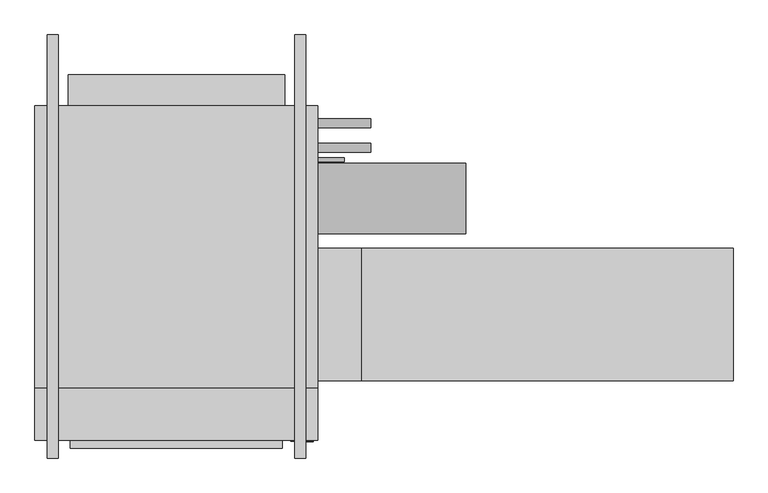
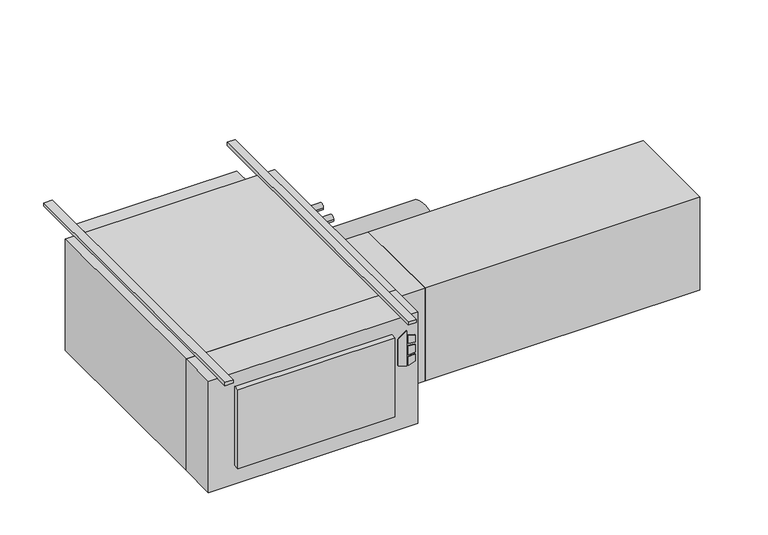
"""IFC4 building model written with IfcOpenShell, lengths in millimetres: proxy geometry."""

from ifc_helpers import new_model, si_unit, point, frame, frame_2d, origin, origin_with_axes, place, context, project, spatial, polyline, circle_curve, trimmed, segment, composite_curve, outline, extrude, source, transform, mapped, element, save


def mechanical_equipment_14f6b31d(model_context):
    return source(origin(), model_context, "Body", "SweptSolid", [
        extrude(outline(polyline([(-193.2519297, 481.0868862), (-203.2, 513.2602728), (-61.0290756, 513.2602728), (-84.0510817, 481.0868862), (-193.2519297, 481.0868862)])), frame((0.0, -797.052, 0.0), z_axis=(0.0, 1.0, 0.0), x_axis=(0.0, 0.0, 1.0)), (0.0, 0.0, 1.0), 3.175),
        extrude(outline(polyline([(-114.2526443, 520.0186058), (-117.4550368, 546.1), (-88.2261958, 546.1), (-80.1617807, 520.0186058), (-114.2526443, 520.0186058)])), frame((0.0, -797.052, 0.0), z_axis=(0.0, 1.0, 0.0), x_axis=(0.0, 0.0, 1.0)), (0.0, 0.0, 1.0), 3.175),
        extrude(outline(polyline([(-166.1161712, 546.1), (-169.7816721, 520.0186058), (-203.2, 520.0186058), (-194.5657628, 546.1), (-166.1161712, 546.1)])), frame((0.0, -797.052, 0.0), z_axis=(0.0, 1.0, 0.0), x_axis=(0.0, 0.0, 1.0)), (0.0, 0.0, 1.0), 3.175),
        extrude(outline(polyline([(-126.8010097, 546.1), (-124.5191834, 520.0186058), (-160.4567319, 520.0186058), (-157.7154669, 546.1), (-126.8010097, 546.1)])), frame((0.0, -797.052, 0.0), z_axis=(0.0, 1.0, 0.0), x_axis=(0.0, 0.0, 1.0)), (0.0, 0.0, 1.0), 3.175),
        extrude(outline(polyline([(558.8, -793.877), (-254.0, -793.877), (-254.0, -644.525), (558.8, -644.525), (558.8, -793.877)])), frame((0.0, 0.0, -457.2), z_axis=(0.0, 0.0, 1.0), x_axis=(1.0, 0.0, 0.0)), (0.0, 0.0, 1.0), 457.2),
        extrude(outline(polyline([(457.2, -816.229), (-152.4, -816.229), (-152.4, -793.877), (457.2, -793.877), (457.2, -816.229)])), frame((0.0, 0.0, -381.0), z_axis=(0.0, 0.0, 1.0), x_axis=(1.0, 0.0, 0.0)), (0.0, 0.0, 1.0), 323.85),
        extrude(outline(polyline([(1752.6, -241.3), (1752.6, -622.3), (685.8, -622.3), (685.8, -241.3), (1752.6, -241.3)])), frame((0.0, 0.0, -431.8), z_axis=(0.0, 0.0, 1.0), x_axis=(1.0, 0.0, 0.0)), (0.0, 0.0, 1.0), 381.0),
        extrude(outline(polyline([(685.8, -241.3), (685.8, -622.3), (558.8, -622.3), (558.8, -241.3), (685.8, -241.3)])), frame((0.0, 0.0, -431.8), z_axis=(0.0, 0.0, 1.0), x_axis=(1.0, 0.0, 0.0)), (0.0, 0.0, 1.0), 381.0),
        extrude(outline(composite_curve([segment(trimmed(circle_curve(frame_2d((117.475, -171.45)), 12.7), [point((130.175, -171.45))], [point((104.775, -171.45))], False, "CARTESIAN"), True, "CONTINUOUS"), segment(trimmed(circle_curve(frame_2d((117.475, -171.45)), 12.7), [point((104.775, -171.45))], [point((130.175, -171.45))], False, "CARTESIAN"), True, "CONTINUOUS")], self_intersect=False)), frame((558.8, 0.0, 0.0), z_axis=(1.0, 0.0, 0.0), x_axis=(0.0, 1.0, 0.0)), (0.0, 0.0, 1.0), 152.4),
        extrude(outline(composite_curve([segment(trimmed(circle_curve(frame_2d((47.625, -177.8)), 12.7), [point((60.325, -177.8))], [point((34.925, -177.8))], False, "CARTESIAN"), True, "CONTINUOUS"), segment(trimmed(circle_curve(frame_2d((47.625, -177.8)), 12.7), [point((34.925, -177.8))], [point((60.325, -177.8))], False, "CARTESIAN"), True, "CONTINUOUS")], self_intersect=False)), frame((558.8, 0.0, 0.0), z_axis=(1.0, 0.0, 0.0), x_axis=(0.0, 1.0, 0.0)), (0.0, 0.0, 1.0), 152.4),
        extrude(outline(composite_curve([segment(trimmed(circle_curve(frame_2d((-98.4896516, -228.6360165)), 101.6), [point((3.1103484, -228.6360165))], [point((-200.0896516, -228.6360165))], False, "CARTESIAN"), True, "CONTINUOUS"), segment(trimmed(circle_curve(frame_2d((-98.4896516, -228.6360165)), 101.6), [point((-200.0896516, -228.6360165))], [point((3.1103484, -228.6360165))], False, "CARTESIAN"), True, "CONTINUOUS")], self_intersect=False)), frame((558.8, 0.0, 0.0), z_axis=(1.0, 0.0, 0.0), x_axis=(0.0, 1.0, 0.0)), (0.0, 0.0, 1.0), 425.45),
        extrude(outline(composite_curve([segment(trimmed(circle_curve(frame_2d((12.7, -409.575)), 6.35), [point((19.05, -409.575))], [point((6.35, -409.575))], False, "CARTESIAN"), True, "CONTINUOUS"), segment(trimmed(circle_curve(frame_2d((12.7, -409.575)), 6.35), [point((6.35, -409.575))], [point((19.05, -409.575))], False, "CARTESIAN"), True, "CONTINUOUS")], self_intersect=False)), frame((558.8, 0.0, 0.0), z_axis=(1.0, 0.0, 0.0), x_axis=(0.0, 1.0, 0.0)), (0.0, 0.0, 1.0), 76.2),
        extrude(outline(polyline([(558.8, 168.275), (558.8, -644.525), (-254.0, -644.525), (-254.0, 168.275), (558.8, 168.275)])), frame((0.0, 0.0, -457.2), z_axis=(0.0, 0.0, 1.0), x_axis=(1.0, 0.0, 0.0)), (0.0, 0.0, 1.0), 457.2),
        extrude(outline(polyline([(-158.75, 257.175), (463.55, 257.175), (463.55, 168.275), (-158.75, 168.275), (-158.75, 257.175)])), frame((0.0, 0.0, -381.0), z_axis=(0.0, 0.0, 1.0), x_axis=(1.0, 0.0, 0.0)), (0.0, 0.0, 1.0), 355.6),
        extrude(outline(polyline([(-187.325, 371.475), (-187.325, -844.677), (-219.075, -844.677), (-219.075, 371.475), (-187.325, 371.475)])), origin_with_axes(), (0.0, 0.0, 1.0), 12.7),
        extrude(outline(polyline([(523.875, 371.475), (523.875, -844.677), (492.125, -844.677), (492.125, 371.475), (523.875, 371.475)])), origin_with_axes(), (0.0, 0.0, 1.0), 12.7),
    ])


if __name__ == "__main__":
    model = new_model("IFC4")
    model_context = context("Model", 3, world=origin())
    ifc_project = project(units=[si_unit("LENGTHUNIT", "METRE", prefix="MILLI")], contexts=[model_context])
    site = spatial("IfcSite", under=ifc_project)
    building = spatial("IfcBuilding", under=site)
    placement = place(None, origin())
    mechanical_equipment_shape = mechanical_equipment_14f6b31d(model_context)
    element("IfcBuildingElementProxy", 1, Name="High_Capacity_Horizontal_Cabinet_Fan_Coil_Unit_-_HTY_-_IEC_-_2 Pipe, Elec Heat_WO-Attenuator_RH Side_2022 : Size 10 - 277v/60Hz/1Ph - 8/0 Coil 7.0kW - 8\" AirIn", ObjectType="High_Capacity_Horizontal_Cabinet_Fan_Coil_Unit_-_HTY_-_IEC_-_2 Pipe, Elec Heat_WO-Attenuator_RH Side_2022 : Size 10 - 277v/60Hz/1Ph - 8/0 Coil 7.0kW - 8\" AirIn", at=placement, inside=building, context=model_context, shape_type="MappedRepresentation", body=[
        mapped(mechanical_equipment_shape, transform((0.0, 0.0, 0.0), x_axis=(1.0, 0.0, 0.0), y_axis=(0.0, 1.0, 0.0), z_axis=(0.0, 0.0, 1.0))),
    ])
    save(model, "model.ifc")
